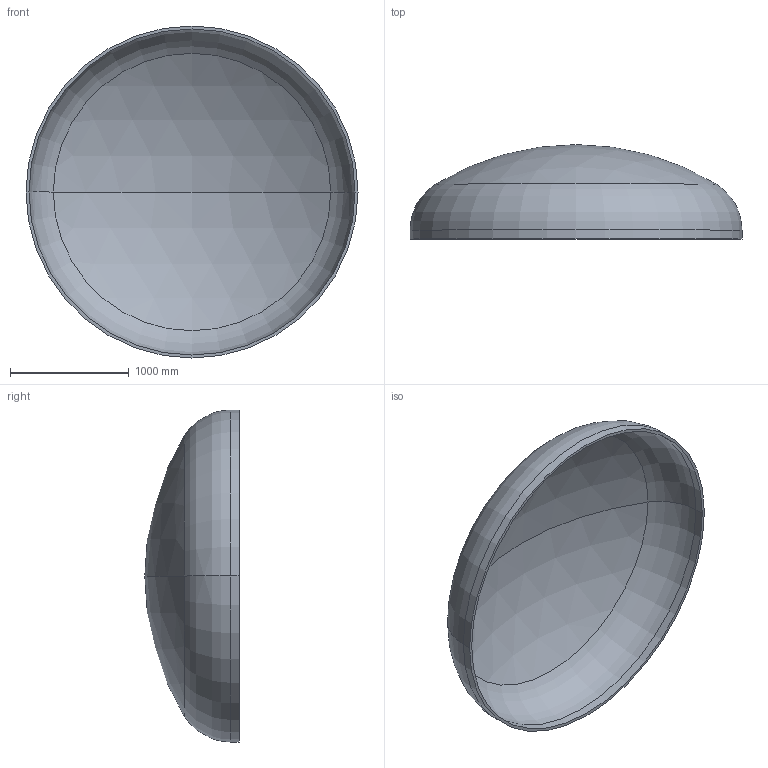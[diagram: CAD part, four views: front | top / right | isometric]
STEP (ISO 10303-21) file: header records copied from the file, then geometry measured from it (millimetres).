
FILE_DESCRIPTION (( 'STEP AP203' ), '1' );
FILE_NAME ('DIN 28013 Korbbogenform_-_Boden DIN 28013 - 2800 x 75 - I - s=25.step', '2016-07-01T16:49:37', ( '' ), ( '' ), 'SwSTEP 2.0', 'SolidWorks 2013', '' );
FILE_SCHEMA (( 'CONFIG_CONTROL_DESIGN' ));
Length unit declared in the file: millimetre
Products named in the file (1): DIN 28013 Korbbogenform_-_Boden DIN 28013 - 2800 x 75 - I - s=25
Bounding box: 2800 x 796.28 x 2800 mm (x, y, z)
Volume: 226931155 mm3; surface area: 18373742.6 mm2
Topology: 1 solids, 1 shells, 13 faces, 24 edges, 14 vertices
Faces by surface type: torus 4, cylinder 4, sphere 4, plane 1
Entity records: 407 total; most frequent: DIRECTION 72, CARTESIAN_POINT 52, ORIENTED_EDGE 48, AXIS2_PLACEMENT_3D 34, EDGE_CURVE 24, CIRCLE 20, VERTEX_POINT 14, EDGE_LOOP 14
